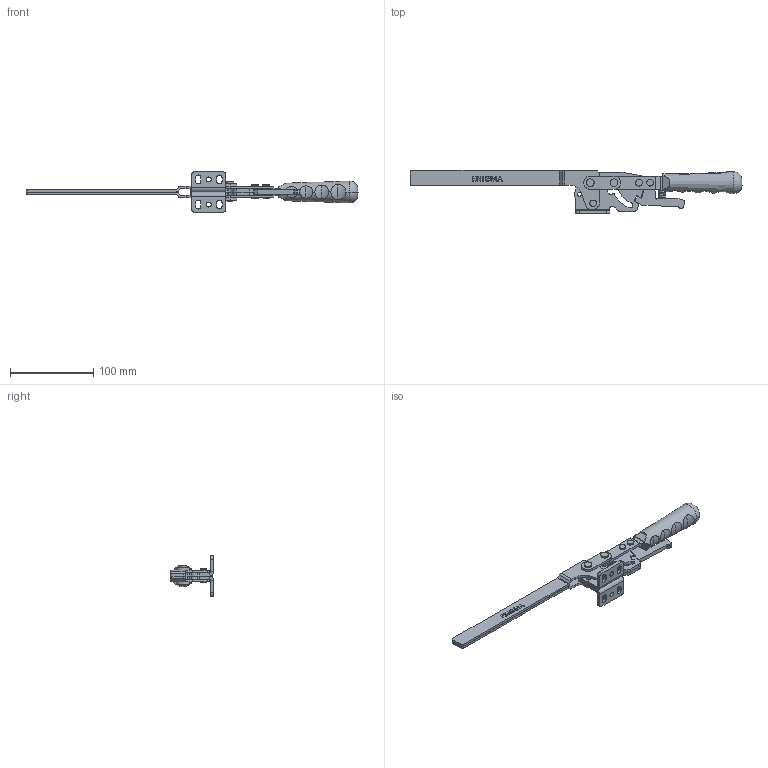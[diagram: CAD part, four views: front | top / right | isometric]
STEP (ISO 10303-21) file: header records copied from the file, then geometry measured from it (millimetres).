
FILE_DESCRIPTION (( 'STEP AP203' ), '1' );
FILE_NAME ('1244_Y_L.STEP', '2022-12-13T12:11:01', ( '' ), ( '' ), 'SwSTEP 2.0', 'SolidWorks 2023', '' );
FILE_SCHEMA (( 'CONFIG_CONTROL_DESIGN' ));
Length unit declared in the file: millimetre
Products named in the file (12): Pim_5x18_Varsay_X2_0131_X0_lan; 1244_Y_L; 2225_Lama_Bask_X2_0131_X0_Kolu; Pim_6x24_5_Varsay_X2_0131_X0_lan; 2225_KozaMafsal_1; Mirror1234 Y YENİ GÖVDE_Varsayılan; 2225_HareketKolu_1; Aynalama2225_Lama_Bask_X2_0131_X0_Kolu; cap5x15_CekmeYay_X2_0131_X0_; C95_Yeni_Tutamak_Varsay_X2_0131_X0_lan; 1234 Y YENİ GÖVDE_Varsayılan; 2225_K_Mandal3_1
Assembly tree (16 placements, depth 2):
  1244_Y_L
    2225_Lama_Bask_X2_0131_X0_Kolu
    2225_KozaMafsal_1  x2
    2225_HareketKolu_1  x2
    Pim_5x18_Varsay_X2_0131_X0_lan  x3
    Pim_6x24_5_Varsay_X2_0131_X0_lan  x2
    2225_K_Mandal3_1
    cap5x15_CekmeYay_X2_0131_X0_
    Aynalama2225_Lama_Bask_X2_0131_X0_Kolu
    C95_Yeni_Tutamak_Varsay_X2_0131_X0_lan
    1234 Y YENİ GÖVDE_Varsayılan
    Mirror1234 Y YENİ GÖVDE_Varsayılan
Bounding box: 398.7 x 52.18 x 48.78 mm (x, y, z)
Volume: 113915.5 mm3; surface area: 74164.2 mm2
Topology: 16 solids, 16 shells, 1081 faces, 2922 edges, 1919 vertices
Faces by surface type: plane 578, cylinder 272, bspline 185, torus 42, cone 2, sphere 2
Entity records: 38514 total; most frequent: CARTESIAN_POINT 15653, ORIENTED_EDGE 4810, DIRECTION 3876, EDGE_CURVE 2405, VERTEX_POINT 1587, LINE 1512, VECTOR 1512, AXIS2_PLACEMENT_3D 1182
